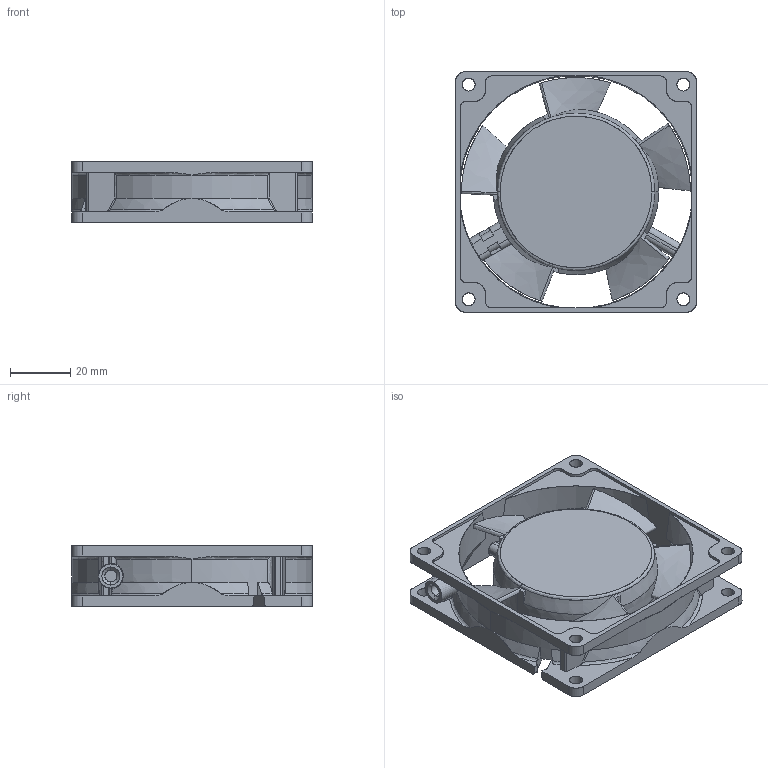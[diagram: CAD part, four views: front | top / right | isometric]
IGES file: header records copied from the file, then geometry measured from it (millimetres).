
Start section: SolidWorks IGES file using analytic representation for surfaces
Global section: file name: C:\Users\araki-souma\Desktop\□80mmX20mm.IGS,; native system: SolidWorks 2017; preprocessor: SolidWorks 2017; author: Araki-Souma; date: 170725.190208; units: millimetre
Bounding box: 80.2 x 80.2 x 20.3 mm (x, y, z)
Surface area: 27864.7 mm2 (no closed solid volume)
Topology: 0 solids, 0 shells, 310 faces, 5140 edges, 5140 vertices
Faces by surface type: bspline 168, revolution 142
